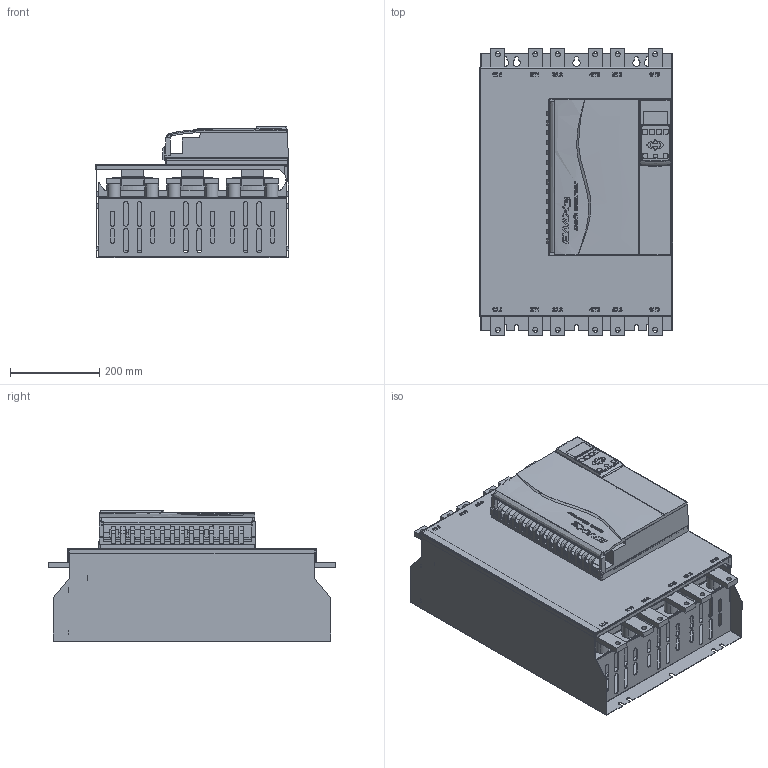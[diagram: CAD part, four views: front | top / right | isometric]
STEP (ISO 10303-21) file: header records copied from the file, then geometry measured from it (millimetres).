
FILE_DESCRIPTION (( 'STEP AP214' ), '1' );
FILE_NAME ('EMX3 G4B General Assembly 700-1000A, simplified, 21NOV12.STEP', '2012-11-27T00:46:07', ( '' ), ( '' ), 'SwSTEP 2.0', 'SolidWorks 2012', '' );
FILE_SCHEMA (( 'AUTOMOTIVE_DESIGN' ));
Length unit declared in the file: millimetre
Products named in the file (1): EMX3 G4B General Assembly 700-1000A, simplified, 21NOV12
Bounding box: 432.3 x 640 x 295.05 mm (x, y, z)
Volume: 25091384 mm3; surface area: 4306892.5 mm2
Topology: 66 solids, 66 shells, 3236 faces, 8663 edges, 5697 vertices
Faces by surface type: plane 1879, cylinder 880, bspline 342, cone 97, sphere 33, torus 5
Entity records: 158784 total; most frequent: CARTESIAN_POINT 42540, ORIENTED_EDGE 17300, DIRECTION 15227, EDGE_CURVE 8650, VERTEX_POINT 5697, VECTOR 5657, LINE 5657, AXIS2_PLACEMENT_3D 4785
